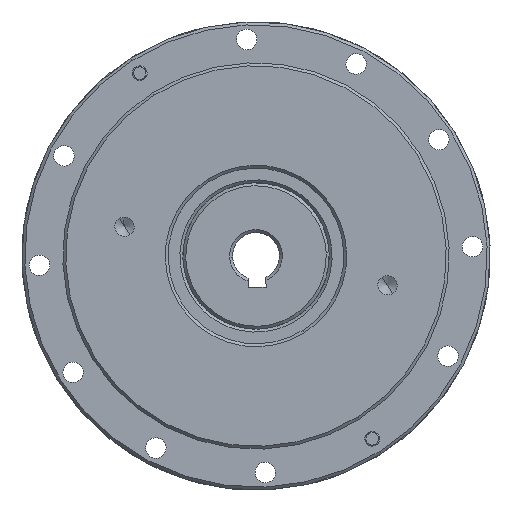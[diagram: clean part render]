
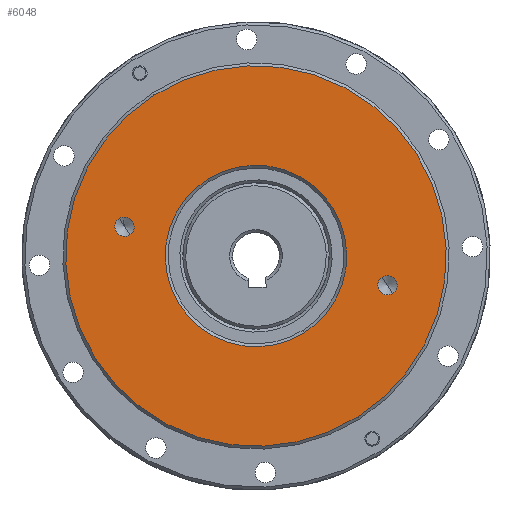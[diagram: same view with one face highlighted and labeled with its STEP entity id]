
A CAD part, left-side view. The second image highlights one B-rep face of the part: STEP entity #6048.
In plain terms, the highlighted planar face has unit normal (-1, 0, 0).
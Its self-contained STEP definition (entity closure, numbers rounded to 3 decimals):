
#99 = EDGE_CURVE ( 'NONE', #31638, #18518, #73473, .T. ) ;
#1065 = CARTESIAN_POINT ( 'NONE',  ( -9.582, -8.498, -13.072 ) ) ;
#1380 = DIRECTION ( 'NONE',  ( 0., 0.537, 0.844 ) ) ;
#2319 = ORIENTED_EDGE ( 'NONE', *, *, #53455, .T. ) ;
#2983 = DIRECTION ( 'NONE',  ( 1., 0., 0. ) ) ;
#3489 = DIRECTION ( 'NONE',  ( -1., 0., 0. ) ) ;
#6048 = ADVANCED_FACE ( 'NONE', ( #63041, #57020, #51370, #45669 ), #64636, .F. ) ;
#8840 = CARTESIAN_POINT ( 'NONE',  ( -9.582, 21.384, 3.614 ) ) ;
#10503 = ORIENTED_EDGE ( 'NONE', *, *, #15148, .T. ) ;
#12509 = EDGE_CURVE ( 'NONE', #46241, #32347, #44049, .T. ) ;
#13959 = CIRCLE ( 'NONE', #59102, 1.65 ) ;
#14235 = DIRECTION ( 'NONE',  ( 0., -0.537, -0.844 ) ) ;
#15148 = EDGE_CURVE ( 'NONE', #47576, #68728, #44245, .T. ) ;
#16545 = EDGE_CURVE ( 'NONE', #68728, #47576, #76707, .T. ) ;
#16683 = DIRECTION ( 'NONE',  ( 0., 0.537, 0.844 ) ) ;
#17177 = DIRECTION ( 'NONE',  ( -1., 0., 0. ) ) ;
#17638 = ORIENTED_EDGE ( 'NONE', *, *, #66862, .F. ) ;
#17881 = DIRECTION ( 'NONE',  ( 0., -0.537, -0.844 ) ) ;
#18057 = EDGE_LOOP ( 'NONE', ( #36398, #21530 ) ) ;
#18518 = VERTEX_POINT ( 'NONE', #38659 ) ;
#19547 = ORIENTED_EDGE ( 'NONE', *, *, #12509, .T. ) ;
#20605 = ORIENTED_EDGE ( 'NONE', *, *, #60205, .F. ) ;
#20648 = CARTESIAN_POINT ( 'NONE',  ( -9.582, -0.181, 0.008 ) ) ;
#21530 = ORIENTED_EDGE ( 'NONE', *, *, #63824, .F. ) ;
#25443 = AXIS2_PLACEMENT_3D ( 'NONE', #51779, #2983, #14235 ) ;
#25517 = CARTESIAN_POINT ( 'NONE',  ( -9.582, -22.632, -4.99 ) ) ;
#25536 = VERTEX_POINT ( 'NONE', #78289 ) ;
#25947 = DIRECTION ( 'NONE',  ( 1., 0., 0. ) ) ;
#26307 = DIRECTION ( 'NONE',  ( -1., 0., 0. ) ) ;
#26984 = CARTESIAN_POINT ( 'NONE',  ( -9.582, 8.135, 13.088 ) ) ;
#27649 = DIRECTION ( 'NONE',  ( -1., 0., 0. ) ) ;
#28436 = CARTESIAN_POINT ( 'NONE',  ( -9.582, -0.181, 0.008 ) ) ;
#28791 = AXIS2_PLACEMENT_3D ( 'NONE', #28436, #27649, #34052 ) ;
#30046 = AXIS2_PLACEMENT_3D ( 'NONE', #49435, #17177, #73631 ) ;
#31638 = VERTEX_POINT ( 'NONE', #72773 ) ;
#31954 = CARTESIAN_POINT ( 'NONE',  ( -9.582, 17.257, 27.434 ) ) ;
#32347 = VERTEX_POINT ( 'NONE', #26984 ) ;
#34052 = DIRECTION ( 'NONE',  ( 0., -0.537, -0.844 ) ) ;
#35231 = VERTEX_POINT ( 'NONE', #8840 ) ;
#35253 = EDGE_LOOP ( 'NONE', ( #73480, #10503 ) ) ;
#35433 = AXIS2_PLACEMENT_3D ( 'NONE', #25517, #38393, #1380 ) ;
#36398 = ORIENTED_EDGE ( 'NONE', *, *, #99, .F. ) ;
#38393 = DIRECTION ( 'NONE',  ( -1., 0., 0. ) ) ;
#38659 = CARTESIAN_POINT ( 'NONE',  ( -9.582, -23.517, -6.382 ) ) ;
#39214 = DIRECTION ( 'NONE',  ( 1., 0., 0. ) ) ;
#40003 = DIRECTION ( 'NONE',  ( 0., -0.537, -0.844 ) ) ;
#44049 = CIRCLE ( 'NONE', #50533, 15.5 ) ;
#44203 = EDGE_LOOP ( 'NONE', ( #17638, #20605 ) ) ;
#44245 = CIRCLE ( 'NONE', #28791, 32.5 ) ;
#45391 = DIRECTION ( 'NONE',  ( 0., 0.537, 0.844 ) ) ;
#45669 = FACE_BOUND ( 'NONE', #18057, .T. ) ;
#46241 = VERTEX_POINT ( 'NONE', #1065 ) ;
#47576 = VERTEX_POINT ( 'NONE', #31954 ) ;
#49435 = CARTESIAN_POINT ( 'NONE',  ( -9.582, 22.269, 5.006 ) ) ;
#50533 = AXIS2_PLACEMENT_3D ( 'NONE', #65432, #39214, #40003 ) ;
#50930 = DIRECTION ( 'NONE',  ( 0., -0.537, -0.844 ) ) ;
#51370 = FACE_BOUND ( 'NONE', #44203, .T. ) ;
#51779 = CARTESIAN_POINT ( 'NONE',  ( -9.582, 17.525, 27.856 ) ) ;
#52426 = AXIS2_PLACEMENT_3D ( 'NONE', #62600, #25947, #17881 ) ;
#53068 = CARTESIAN_POINT ( 'NONE',  ( -9.582, 22.269, 5.006 ) ) ;
#53455 = EDGE_CURVE ( 'NONE', #32347, #46241, #65305, .T. ) ;
#53958 = CIRCLE ( 'NONE', #57855, 1.65 ) ;
#57020 = FACE_OUTER_BOUND ( 'NONE', #35253, .T. ) ;
#57855 = AXIS2_PLACEMENT_3D ( 'NONE', #70382, #58717, #16683 ) ;
#58717 = DIRECTION ( 'NONE',  ( -1., 0., 0. ) ) ;
#59102 = AXIS2_PLACEMENT_3D ( 'NONE', #53068, #3489, #45391 ) ;
#60205 = EDGE_CURVE ( 'NONE', #35231, #25536, #13959, .T. ) ;
#62600 = CARTESIAN_POINT ( 'NONE',  ( -9.582, -0.181, 0.008 ) ) ;
#63041 = FACE_BOUND ( 'NONE', #65176, .T. ) ;
#63824 = EDGE_CURVE ( 'NONE', #18518, #31638, #53958, .T. ) ;
#64636 = PLANE ( 'NONE',  #25443 ) ;
#65085 = CARTESIAN_POINT ( 'NONE',  ( -9.582, -17.619, -27.417 ) ) ;
#65176 = EDGE_LOOP ( 'NONE', ( #2319, #19547 ) ) ;
#65305 = CIRCLE ( 'NONE', #52426, 15.5 ) ;
#65432 = CARTESIAN_POINT ( 'NONE',  ( -9.582, -0.181, 0.008 ) ) ;
#66862 = EDGE_CURVE ( 'NONE', #25536, #35231, #69940, .T. ) ;
#68728 = VERTEX_POINT ( 'NONE', #65085 ) ;
#69940 = CIRCLE ( 'NONE', #30046, 1.65 ) ;
#70382 = CARTESIAN_POINT ( 'NONE',  ( -9.582, -22.632, -4.99 ) ) ;
#72773 = CARTESIAN_POINT ( 'NONE',  ( -9.582, -21.746, -3.597 ) ) ;
#73473 = CIRCLE ( 'NONE', #35433, 1.65 ) ;
#73480 = ORIENTED_EDGE ( 'NONE', *, *, #16545, .T. ) ;
#73631 = DIRECTION ( 'NONE',  ( 0., 0.537, 0.844 ) ) ;
#76707 = CIRCLE ( 'NONE', #77954, 32.5 ) ;
#77954 = AXIS2_PLACEMENT_3D ( 'NONE', #20648, #26307, #50930 ) ;
#78289 = CARTESIAN_POINT ( 'NONE',  ( -9.582, 23.154, 6.399 ) ) ;
